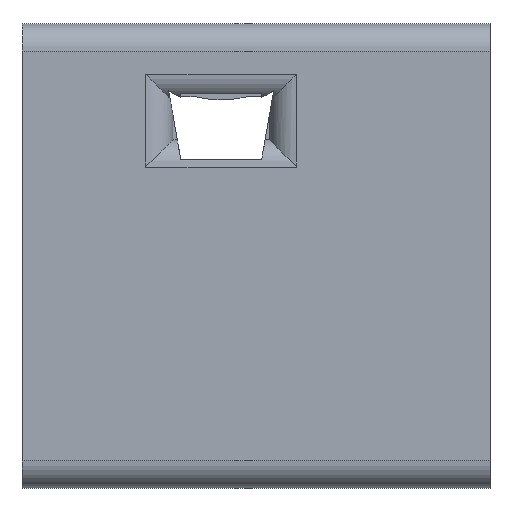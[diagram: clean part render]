
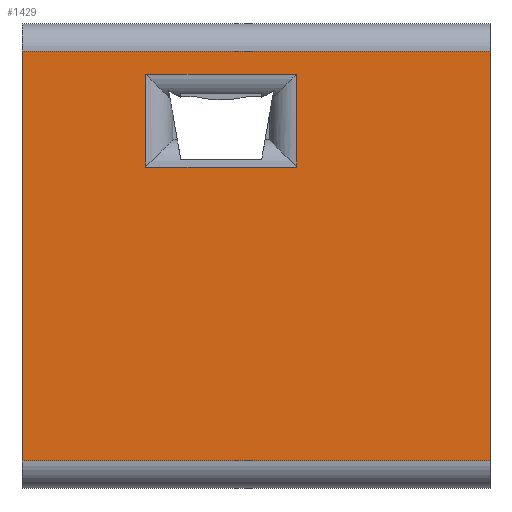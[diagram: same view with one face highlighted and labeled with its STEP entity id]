
A CAD part, front view. The second image highlights one B-rep face of the part: STEP entity #1429.
In plain terms, the highlighted planar face has unit normal (0, -1, 0).
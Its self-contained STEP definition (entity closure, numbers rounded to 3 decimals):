
#50=FACE_BOUND('',#210,.T.);
#122=FACE_OUTER_BOUND('',#209,.T.);
#209=EDGE_LOOP('',(#1259,#1260,#1261,#1262));
#210=EDGE_LOOP('',(#1263,#1264,#1265,#1266));
#219=LINE('',#1951,#385);
#220=LINE('',#1961,#386);
#365=LINE('',#2301,#531);
#368=LINE('',#2308,#534);
#376=LINE('',#2342,#542);
#378=LINE('',#2345,#544);
#379=LINE('',#2347,#545);
#380=LINE('',#2348,#546);
#385=VECTOR('',#1567,10.);
#386=VECTOR('',#1576,10.);
#531=VECTOR('',#1863,10.);
#534=VECTOR('',#1870,10.);
#542=VECTOR('',#1918,10.);
#544=VECTOR('',#1922,10.);
#545=VECTOR('',#1923,10.);
#546=VECTOR('',#1924,10.);
#568=VERTEX_POINT('',#1940);
#573=VERTEX_POINT('',#1949);
#577=VERTEX_POINT('',#1958);
#578=VERTEX_POINT('',#1960);
#689=VERTEX_POINT('',#2298);
#690=VERTEX_POINT('',#2300);
#692=VERTEX_POINT('',#2307);
#699=VERTEX_POINT('',#2346);
#705=EDGE_CURVE('',#573,#568,#219,.T.);
#709=EDGE_CURVE('',#577,#578,#220,.T.);
#872=EDGE_CURVE('',#689,#690,#365,.T.);
#876=EDGE_CURVE('',#690,#692,#368,.T.);
#891=EDGE_CURVE('',#568,#577,#376,.T.);
#893=EDGE_CURVE('',#573,#578,#378,.T.);
#894=EDGE_CURVE('',#699,#689,#379,.T.);
#895=EDGE_CURVE('',#692,#699,#380,.T.);
#1259=ORIENTED_EDGE('',*,*,#893,.T.);
#1260=ORIENTED_EDGE('',*,*,#709,.F.);
#1261=ORIENTED_EDGE('',*,*,#891,.F.);
#1262=ORIENTED_EDGE('',*,*,#705,.F.);
#1263=ORIENTED_EDGE('',*,*,#872,.F.);
#1264=ORIENTED_EDGE('',*,*,#894,.F.);
#1265=ORIENTED_EDGE('',*,*,#895,.F.);
#1266=ORIENTED_EDGE('',*,*,#876,.F.);
#1355=PLANE('',#1549);
#1429=ADVANCED_FACE('',(#122,#50),#1355,.T.);
#1549=AXIS2_PLACEMENT_3D('',#2344,#1920,#1921);
#1567=DIRECTION('',(0.,0.,-1.));
#1576=DIRECTION('',(0.,0.,1.));
#1863=DIRECTION('',(0.,0.,-1.));
#1870=DIRECTION('',(1.,0.,0.));
#1918=DIRECTION('',(-1.,0.,0.));
#1920=DIRECTION('center_axis',(0.,-1.,0.));
#1921=DIRECTION('ref_axis',(0.,0.,-1.));
#1922=DIRECTION('',(-1.,0.,0.));
#1923=DIRECTION('',(-1.,0.,0.));
#1924=DIRECTION('',(0.,0.,1.));
#1940=CARTESIAN_POINT('',(117.,-12.,-113.));
#1949=CARTESIAN_POINT('',(117.,-12.,-7.));
#1951=CARTESIAN_POINT('',(117.,-12.,0.));
#1958=CARTESIAN_POINT('',(-4.,-12.,-113.));
#1960=CARTESIAN_POINT('',(-4.,-12.,-7.));
#1961=CARTESIAN_POINT('',(-4.,-12.,0.));
#2298=CARTESIAN_POINT('',(28.,-12.,-13.));
#2300=CARTESIAN_POINT('',(28.,-12.,-37.));
#2301=CARTESIAN_POINT('',(28.,-12.,0.));
#2307=CARTESIAN_POINT('',(67.,-12.,-37.));
#2308=CARTESIAN_POINT('',(0.,-12.,-37.));
#2342=CARTESIAN_POINT('',(0.,-12.,-113.));
#2344=CARTESIAN_POINT('Origin',(0.,-12.,0.));
#2345=CARTESIAN_POINT('',(0.,-12.,-7.));
#2346=CARTESIAN_POINT('',(67.,-12.,-13.));
#2347=CARTESIAN_POINT('',(0.,-12.,-13.));
#2348=CARTESIAN_POINT('',(67.,-12.,0.));
